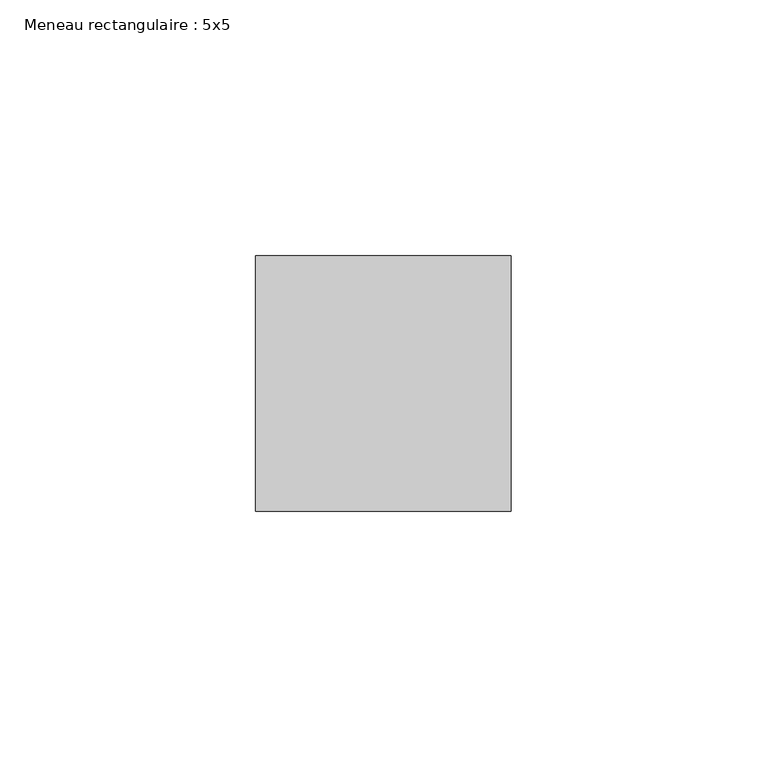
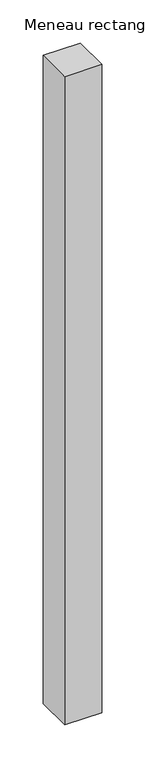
"""IFC4 building model written with IfcOpenShell, lengths in millimetres: member geometry, Meneau rectangulaire : 5x5."""

from ifc_helpers import new_model, si_unit, frame, origin, place, context, project, spatial, polyline, outline, extrude, source, transform, mapped, element, save


def meneau_rectangulaire_5x5_1be1c0a5(model_context):
    return source(origin(), model_context, "Body", "SweptSolid", [
        extrude(outline(polyline([(0.0, 25.0), (0.0, -25.0), (-50.0, -25.0), (-50.0, 25.0), (0.0, 25.0)])), frame((0.0, 0.0, -920.0), z_axis=(0.0, 0.0, 1.0), x_axis=(1.0, 0.0, 0.0)), (0.0, 0.0, 1.0), 920.0),
    ])


if __name__ == "__main__":
    model = new_model("IFC4")
    model_context = context("Model", 3, world=origin())
    ifc_project = project(units=[si_unit("LENGTHUNIT", "METRE", prefix="MILLI")], contexts=[model_context])
    site = spatial("IfcSite", under=ifc_project)
    building = spatial("IfcBuilding", under=site)
    placement = place(None, origin())
    meneau_rectangulaire_5x5_shape = meneau_rectangulaire_5x5_1be1c0a5(model_context)
    element("IfcMember", 1, ObjectType="Meneau rectangulaire : 5x5", at=placement, inside=building, context=model_context, shape_type="MappedRepresentation", body=[
        mapped(meneau_rectangulaire_5x5_shape, transform((0.0, 0.0, 0.0), x_axis=(1.0, 0.0, 0.0), y_axis=(0.0, 1.0, 0.0), z_axis=(0.0, 0.0, 1.0))),
    ])
    save(model, "model.ifc")
